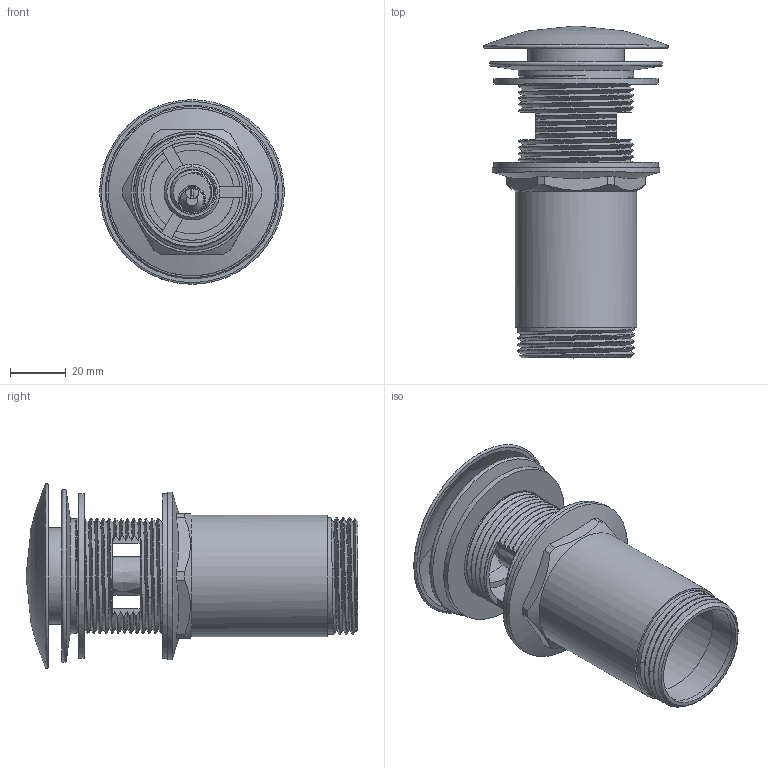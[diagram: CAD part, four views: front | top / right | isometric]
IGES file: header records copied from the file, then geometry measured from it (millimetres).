
Global section: file name: c1e2cb7f-7d1d-4735-826e-1583839bc928; native system: unknown; preprocessor: unknown; author: unknown; organization: unknown; date: 20191212.144445; units: millimetre
Bounding box: 65.98 x 118.8 x 65.99 mm (x, y, z)
Volume: 43061.7 mm3; surface area: 70378.7 mm2
Topology: 8 solids, 9 shells, 281 faces, 943 edges, 688 vertices
Faces by surface type: bspline 281
